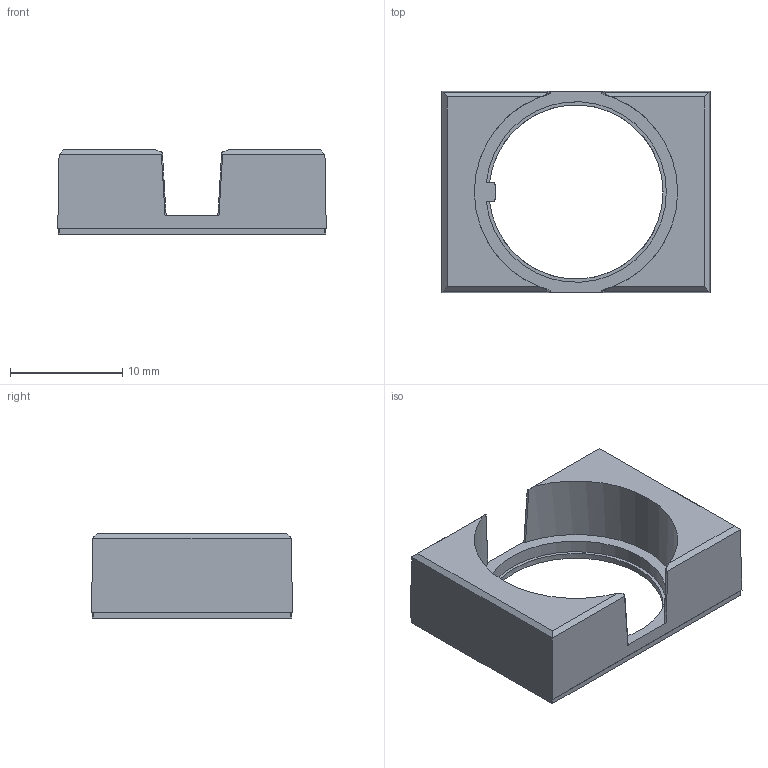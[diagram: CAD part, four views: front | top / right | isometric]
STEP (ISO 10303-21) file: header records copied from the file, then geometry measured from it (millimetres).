
FILE_DESCRIPTION((''),'2;1');
FILE_NAME('10000122867','2010-10-13T',('MEDavids'),('Rockwell Automation'),'PRO/ENGINEER BY PARAMETRIC TECHNOLOGY CORPORATION, 2007390','PRO/ENGINEER BY PARAMETRIC TECHNOLOGY CORPORATION, 2007390','');
FILE_SCHEMA(('CONFIG_CONTROL_DESIGN'));
Length unit declared in the file: millimetre
Products named in the file (1): 10000122867
Bounding box: 23.9 x 17.9 x 7.5 mm (x, y, z)
Volume: 1014.7 mm3; surface area: 2188.7 mm2
Topology: 1 solids, 5 shells, 181 faces, 475 edges, 310 vertices
Faces by surface type: plane 117, cylinder 43, extrusion 13, bspline 4, cone 4
Entity records: 6297 total; most frequent: CARTESIAN_POINT 1894, ORIENTED_EDGE 950, DIRECTION 820, EDGE_CURVE 475, VECTOR 312, VERTEX_POINT 310, LINE 299, AXIS2_PLACEMENT_3D 254
